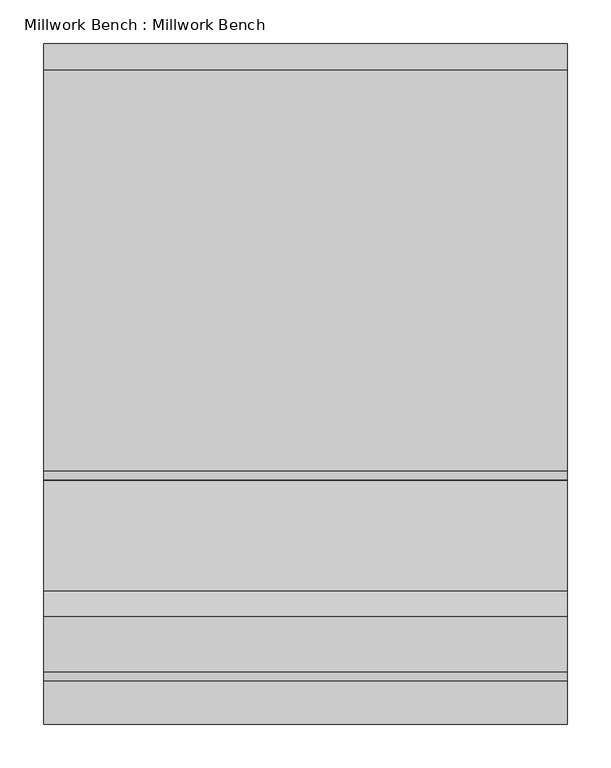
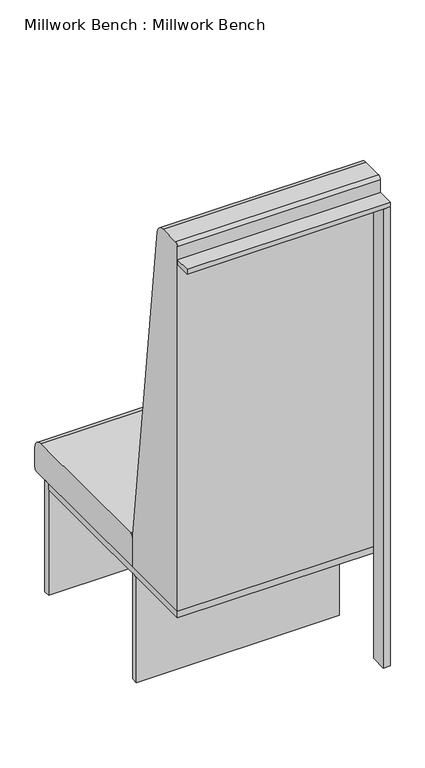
"""IFC4 building model written with IfcOpenShell, lengths in millimetres: plate geometry, Millwork Bench : Millwork Bench."""

from ifc_helpers import new_model, si_unit, point, frame, frame_2d, origin, origin_with_axes, place, context, project, spatial, polyline, circle_curve, trimmed, segment, composite_curve, outline, extrude, source, transform, mapped, element, save


def millwork_bench_millwork_bench_7542b6f9(model_context):
    return source(origin(), model_context, "Body", "SweptSolid", [
        extrude(outline(polyline([(280.0, 50.0), (300.0, 50.0), (300.0, 0.0), (280.0, 0.0), (280.0, 50.0)])), origin_with_axes(), (0.0, 0.0, 1.0), 1435.0),
        extrude(outline(composite_curve([segment(trimmed(circle_curve(frame_2d((60.0, 1490.0)), 10.0), [point((50.0, 1490.0))], [point((60.0, 1500.0))], False, "CARTESIAN"), True, "CONTINUOUS"), segment(polyline([(60.0, 1500.0), (123.4920869, 1500.0)]), True, "CONTINUOUS"), segment(trimmed(circle_curve(frame_2d((123.4920869, 1470.0)), 30.0), [point((123.4920869, 1500.0))], [point((153.0994406, 1474.8378308))], False, "CARTESIAN"), True, "CONTINUOUS"), segment(trimmed(circle_curve(frame_2d((-12920.1560931, -661.3273622)), 13246.6302123), [point((153.0994406, 1474.8378308))], [point((279.897996, 448.5302971))], False, "CARTESIAN"), True, "CONTINUOUS"), segment(trimmed(circle_curve(frame_2d((169.9898497, 444.3374224)), 109.9880941), [point((279.897996, 448.5302971))], [point((279.9779437, 444.3374224))], False, "CARTESIAN"), True, "CONTINUOUS"), segment(polyline([(279.9779437, 444.3374224), (279.9779437, 350.0), (50.0, 350.0), (50.0, 1490.0)]), True, "CONTINUOUS")], self_intersect=False)), frame((-300.0, 0.0, 0.0), z_axis=(1.0, 0.0, 0.0), x_axis=(0.0, 1.0, 0.0)), (0.0, 0.0, 1.0), 600.0),
        extrude(outline(composite_curve([segment(polyline([(290.0, 450.0), (750.0, 450.0)]), True, "CONTINUOUS"), segment(trimmed(circle_curve(frame_2d((750.0, 420.0)), 30.0), [point((750.0, 450.0))], [point((780.0, 420.0))], False, "CARTESIAN"), True, "CONTINUOUS"), segment(polyline([(780.0, 420.0), (780.0, 360.0)]), True, "CONTINUOUS"), segment(trimmed(circle_curve(frame_2d((770.0, 360.0)), 10.0), [point((780.0, 360.0))], [point((770.0, 350.0))], False, "CARTESIAN"), True, "CONTINUOUS"), segment(polyline([(770.0, 350.0), (280.0, 350.0), (280.0, 440.0)]), True, "CONTINUOUS"), segment(trimmed(circle_curve(frame_2d((290.0, 440.0)), 10.0), [point((280.0, 440.0))], [point((290.0, 450.0))], False, "CARTESIAN"), True, "CONTINUOUS")], self_intersect=False)), frame((-300.0, 0.0, 0.0), z_axis=(1.0, 0.0, 0.0), x_axis=(0.0, 1.0, 0.0)), (0.0, 0.0, 1.0), 600.0),
        extrude(outline(polyline([(300.0, 50.0), (300.0, 0.0), (-300.0, 0.0), (-300.0, 50.0), (300.0, 50.0)])), frame((0.0, 0.0, 1435.0), z_axis=(0.0, 0.0, 1.0), x_axis=(1.0, 0.0, 0.0)), (0.0, 0.0, 1.0), 15.0),
        extrude(outline(polyline([(300.0, 280.0), (300.0, 260.0), (-300.0, 260.0), (-300.0, 280.0), (300.0, 280.0)])), origin_with_axes(), (0.0, 0.0, 1.0), 330.0),
        extrude(outline(polyline([(300.0, 710.0), (300.0, 50.0), (-300.0, 50.0), (-300.0, 710.0), (300.0, 710.0)])), frame((0.0, 0.0, 330.0), z_axis=(0.0, 0.0, 1.0), x_axis=(1.0, 0.0, 0.0)), (0.0, 0.0, 1.0), 20.0),
        extrude(outline(polyline([(300.0, 730.0), (300.0, 710.0), (-300.0, 710.0), (-300.0, 730.0), (300.0, 730.0)])), origin_with_axes(), (0.0, 0.0, 1.0), 350.0),
    ])


if __name__ == "__main__":
    model = new_model("IFC4")
    model_context = context("Model", 3, world=origin())
    ifc_project = project(units=[si_unit("LENGTHUNIT", "METRE", prefix="MILLI")], contexts=[model_context])
    site = spatial("IfcSite", under=ifc_project)
    building = spatial("IfcBuilding", under=site)
    placement = place(None, origin())
    millwork_bench_millwork_bench_shape = millwork_bench_millwork_bench_7542b6f9(model_context)
    element("IfcPlate", 1, ObjectType="Millwork Bench : Millwork Bench", at=placement, inside=building, context=model_context, shape_type="MappedRepresentation", body=[
        mapped(millwork_bench_millwork_bench_shape, transform((0.0, 0.0, 0.0), x_axis=(1.0, 0.0, 0.0), y_axis=(0.0, 1.0, 0.0), z_axis=(0.0, 0.0, 1.0))),
    ])
    save(model, "model.ifc")
